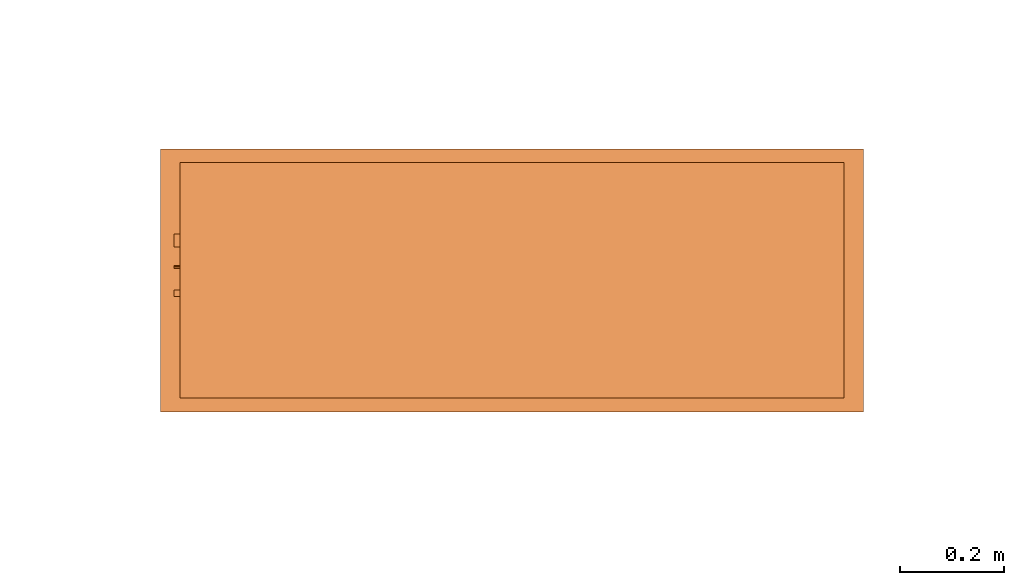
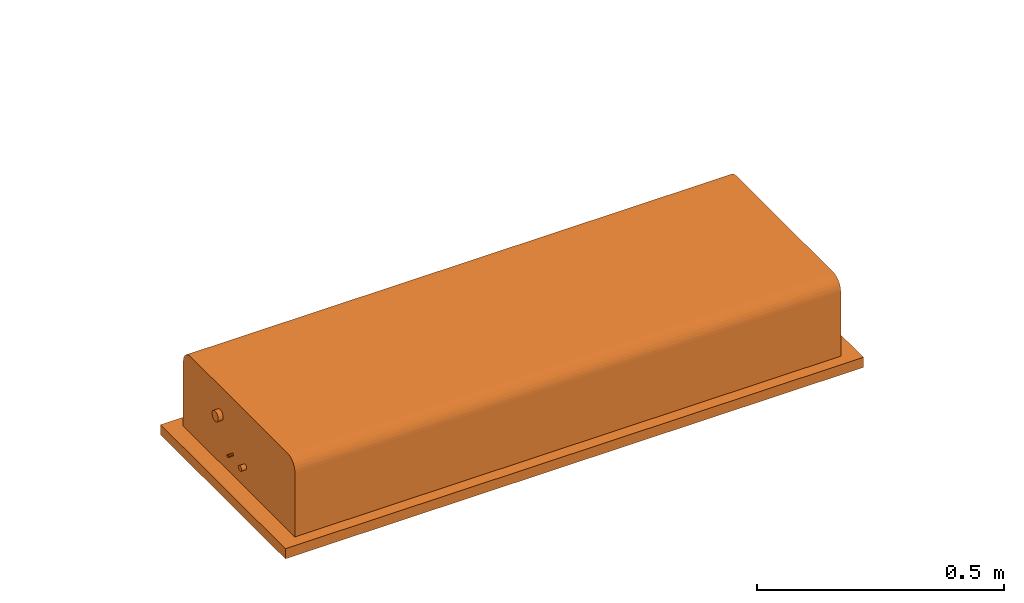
# One storey, part 19 of 22: 1 proxy.
"""IFC2X3 building model written with IfcOpenShell, lengths in millimetres."""

from ifc_helpers import new_model, entity, si_unit, converted_unit, derived_unit, direction, frame, frame_2d, origin, origin_2d_with_axis, place, context, subcontext, project, spatial, polyline, circle_curve, parameter, trimmed, segment, composite_curve, rectangle, circle, outline, extrude, source, transform, mapped, material, type_object, type_shapes, element, save


model = new_model("IFC2X3")

# Units and contexts
model_context = context("Model", 3, precision=0.01, world=origin(), true_north=direction((6.123233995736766e-17, 1.0)))
body_context = subcontext(model_context, "Body", "Model", "MODEL_VIEW")
ifc_project = project(units=[si_unit("LENGTHUNIT", "METRE", prefix="MILLI"), converted_unit("PLANEANGLEUNIT", "DEGREE", entity("IfcPlaneAngleMeasure", 0.017453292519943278), si_unit("PLANEANGLEUNIT", "RADIAN"), dimensions=[0, 0, 0, 0, 0, 0, 0]), si_unit("AREAUNIT", "SQUARE_METRE"), derived_unit("THERMALTRANSMITTANCEUNIT", [(si_unit("MASSUNIT", "GRAM", prefix="KILO"), 1), (si_unit("THERMODYNAMICTEMPERATUREUNIT", "KELVIN"), -1), (si_unit("TIMEUNIT", "SECOND"), -3)])], contexts=[model_context])

# Site, building, storey
site_placement = place(None, origin())
site = spatial("IfcSite", under=ifc_project, at=site_placement, Name="Default", CompositionType="ELEMENT")
building_placement = place(site_placement, origin())
building = spatial("IfcBuilding", under=site, at=building_placement, Name="Praça Pedro II, 1301 - Centro (Sul), Teresina - PI, 64001-100", CompositionType="ELEMENT")
storey_placement = place(building_placement, frame((0.0, 0.0, 320.0)))
storey = spatial("IfcBuildingStorey", under=building, at=storey_placement, Name="TÉRREO +0.32m", CompositionType="ELEMENT", Elevation=319.99999999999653)

# Proxy
ifc_material = material(Name="grilles：ABS/HIPS")
building_element_proxy_type = type_object("IfcBuildingElementProxyType", Name="V8 One-way cassette 4.5-7.1kW Revit:7.1kW", PredefinedType="NOTDEFINED", material=ifc_material)
shared_shape = source(origin(), body_context, "Body", "SweptSolid", [
    extrude(circle(Radius=12.5, at=frame_2d((0.0, -1.6919798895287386e-14), x_axis=(1.0, 0.0))), frame((-564.3577958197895, 76.32030627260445, 144.0), z_axis=(1.0, 0.0, 0.0), x_axis=(0.0, -1.0, 0.0)), (0.0, 0.0, 1.0), 45.78156809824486),
    extrude(circle(Radius=3.1749999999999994, at=origin_2d_with_axis()), frame((-564.3577958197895, 25.48785540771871, 76.0), z_axis=(1.0, 0.0, 0.0), x_axis=(0.0, -1.0, 0.0)), (0.0, 0.0, 1.0), 45.78156809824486),
    extrude(circle(Radius=6.35, at=frame_2d((0.0, -8.459899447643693e-15), x_axis=(1.0, 0.0))), frame((-564.3577958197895, -24.474937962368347, 76.0), z_axis=(1.0, 0.0, 0.0), x_axis=(0.0, -1.0, 0.0)), (0.0, 0.0, 1.0), 45.78156809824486),
    extrude(rectangle(XDim=1349.9999999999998, YDim=505.0000000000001, at=frame_2d((0.0, -2.842170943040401e-14), x_axis=(1.0, 0.0))), frame((85.0, 0.0, 0.0), z_axis=(0.0, 0.0, 1.0), x_axis=(-1.0, 0.0, 0.0)), (0.0, 0.0, 1.0), 24.999999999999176),
    extrude(outline(composite_curve([segment(trimmed(circle_curve(frame_2d((196.0, 43.0), x_axis=(1.0, 0.0)), 29.99999999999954), [parameter(359.99999999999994)], [parameter(89.99999999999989)], True, "PARAMETER"), True, "CONTINUOUS"), segment(polyline([(196.0, 73.0), (-196.0, 73.0)]), True, "CONTINUOUS"), segment(trimmed(circle_curve(frame_2d((-196.0, 43.0), x_axis=(1.0, 0.0)), 30.00000000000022), [parameter(89.99999999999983)], [parameter(180.0000000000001)], True, "PARAMETER"), True, "CONTINUOUS"), segment(polyline([(-226.0, 43.0), (-226.0, -116.0)]), True, "CONTINUOUS"), segment(polyline([(-226.0, -116.0), (226.0, -116.0)]), True, "CONTINUOUS"), segment(polyline([(226.0, -116.0), (226.0, 43.0)]), True, "CONTINUOUS")], self_intersect=False)), frame((-552.5000000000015, 0.0, 141.0), z_axis=(1.0, 0.0, 0.0), x_axis=(0.0, 1.0, 0.0)), (0.0, 0.0, 1.0), 1274.9999999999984),
])
type_shapes(building_element_proxy_type, [shared_shape])
proxy_placement = place(storey_placement, frame((8560.551512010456, -68847.66024199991, 2250.0)))
element("IfcBuildingElementProxy", 1, at=proxy_placement, inside=storey, type_object=building_element_proxy_type, material=ifc_material, Name="V8 One-way cassette 4.5-7.1kW Revit:7.1kW", ObjectType="V8 One-way cassette 4.5-7.1kW Revit:7.1kW", context=body_context, shape_type="MappedRepresentation", body=[
    mapped(shared_shape, transform((0.0, 0.0, 0.0), scale=1.0)),
])

save(model, "model.ifc")
